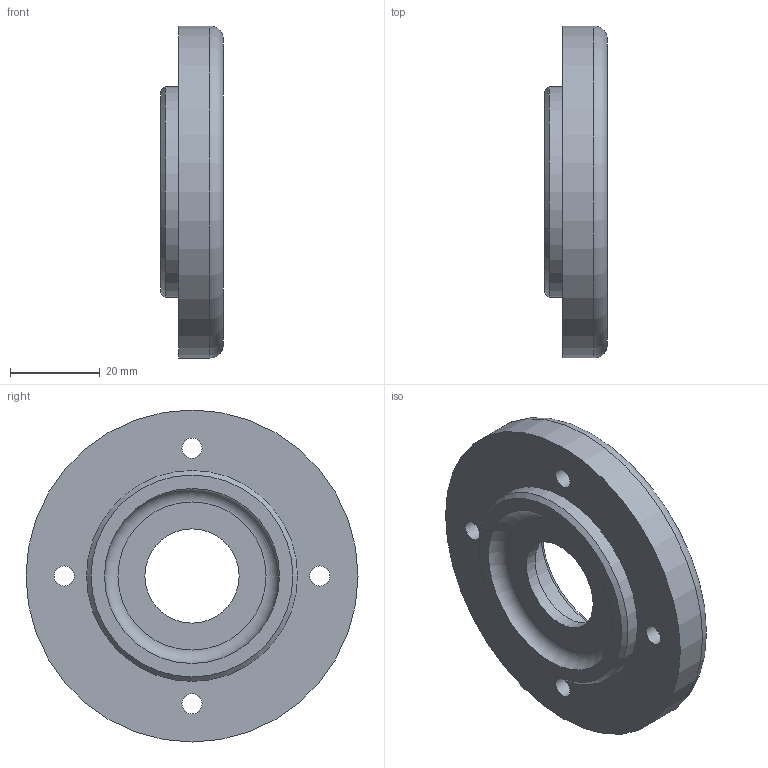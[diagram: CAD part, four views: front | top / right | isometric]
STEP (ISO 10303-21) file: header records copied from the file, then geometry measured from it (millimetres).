
FILE_DESCRIPTION(/* description */ (''),/* implementation_level */ '2;1');
FILE_NAME(/* name */ '',/* time_stamp */ '2024-11-28T15:03:19+09:00',/* author */ ('jhkim'),/* organization */ (''),/* preprocessor_version */ 'ST-DEVELOPER v20',/* originating_system */ 'Autodesk Inventor 2025',/* authorisation */ '');
FILE_SCHEMA (('AUTOMOTIVE_DESIGN { 1 0 10303 214 3 1 1 }'));
Length unit declared in the file: millimetre
Products named in the file (1): 커버
Bounding box: 14 x 74 x 74 mm (x, y, z)
Volume: 37211.1 mm3; surface area: 12237 mm2
Topology: 1 solids, 1 shells, 26 faces, 49 edges, 32 vertices
Faces by surface type: cylinder 12, plane 9, torus 3, cone 2
Full cylindrical faces by diameter (mm): 4.5 x4, 8 x4, 21 x1, 32 x1, 47 x1, 74 x1
Entity records: 735 total; most frequent: DIRECTION 138, CARTESIAN_POINT 108, ORIENTED_EDGE 98, AXIS2_PLACEMENT_3D 62, EDGE_CURVE 49, EDGE_LOOP 43, CIRCLE 35, VERTEX_POINT 32
